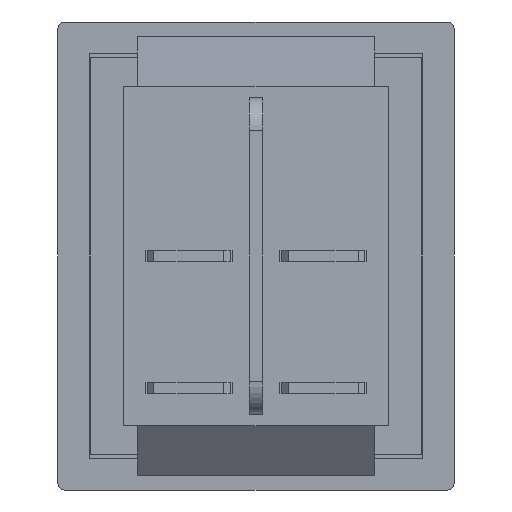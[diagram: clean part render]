
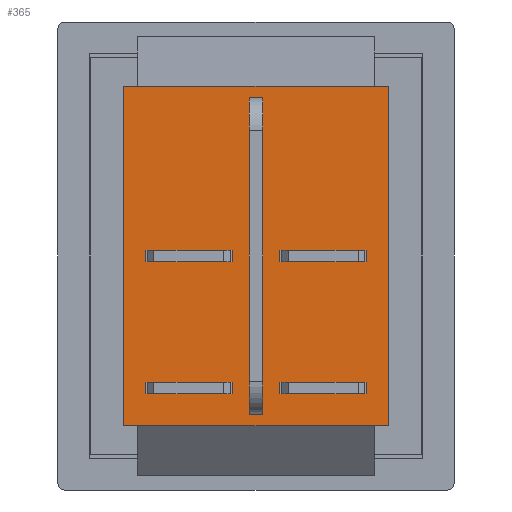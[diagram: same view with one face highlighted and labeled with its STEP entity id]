
A CAD part, front view. The second image highlights one B-rep face of the part: STEP entity #365.
In plain terms, the highlighted planar face has unit normal (0, -1, 0).
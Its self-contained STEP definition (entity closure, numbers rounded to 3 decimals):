
#51 = VERTEX_POINT('',#52);
#52 = CARTESIAN_POINT('',(-10.,-16.,12.85));
#59 = PLANE('',#60);
#60 = AXIS2_PLACEMENT_3D('',#61,#62,#63);
#61 = CARTESIAN_POINT('',(-10.,0.,12.85));
#62 = DIRECTION('',(0.,0.,1.));
#63 = DIRECTION('',(1.,0.,0.));
#71 = PLANE('',#72);
#72 = AXIS2_PLACEMENT_3D('',#73,#74,#75);
#73 = CARTESIAN_POINT('',(-10.,0.,-12.85));
#74 = DIRECTION('',(-1.,0.,0.));
#75 = DIRECTION('',(0.,0.,1.));
#83 = EDGE_CURVE('',#51,#84,#86,.T.);
#84 = VERTEX_POINT('',#85);
#85 = CARTESIAN_POINT('',(10.,-16.,12.85));
#86 = SURFACE_CURVE('',#87,(#91,#98),.PCURVE_S1.);
#87 = LINE('',#88,#89);
#88 = CARTESIAN_POINT('',(-10.,-16.,12.85));
#89 = VECTOR('',#90,1.);
#90 = DIRECTION('',(1.,0.,0.));
#91 = PCURVE('',#59,#92);
#92 = DEFINITIONAL_REPRESENTATION('',(#93),#97);
#93 = LINE('',#94,#95);
#94 = CARTESIAN_POINT('',(0.,-16.));
#95 = VECTOR('',#96,1.);
#96 = DIRECTION('',(1.,0.));
#97 = ( GEOMETRIC_REPRESENTATION_CONTEXT(2) 
PARAMETRIC_REPRESENTATION_CONTEXT() REPRESENTATION_CONTEXT('2D SPACE',''
  ) );
#98 = PCURVE('',#99,#104);
#99 = PLANE('',#100);
#100 = AXIS2_PLACEMENT_3D('',#101,#102,#103);
#101 = CARTESIAN_POINT('',(0.,-16.,0.));
#102 = DIRECTION('',(0.,1.,0.));
#103 = DIRECTION('',(0.,0.,1.));
#104 = DEFINITIONAL_REPRESENTATION('',(#105),#109);
#105 = LINE('',#106,#107);
#106 = CARTESIAN_POINT('',(12.85,-10.));
#107 = VECTOR('',#108,1.);
#108 = DIRECTION('',(0.,1.));
#109 = ( GEOMETRIC_REPRESENTATION_CONTEXT(2) 
PARAMETRIC_REPRESENTATION_CONTEXT() REPRESENTATION_CONTEXT('2D SPACE',''
  ) );
#127 = PLANE('',#128);
#128 = AXIS2_PLACEMENT_3D('',#129,#130,#131);
#129 = CARTESIAN_POINT('',(10.,0.,12.85));
#130 = DIRECTION('',(1.,0.,0.));
#131 = DIRECTION('',(0.,0.,-1.));
#169 = EDGE_CURVE('',#84,#170,#172,.T.);
#170 = VERTEX_POINT('',#171);
#171 = CARTESIAN_POINT('',(10.,-16.,-12.85));
#172 = SURFACE_CURVE('',#173,(#177,#184),.PCURVE_S1.);
#173 = LINE('',#174,#175);
#174 = CARTESIAN_POINT('',(10.,-16.,12.85));
#175 = VECTOR('',#176,1.);
#176 = DIRECTION('',(0.,0.,-1.));
#177 = PCURVE('',#127,#178);
#178 = DEFINITIONAL_REPRESENTATION('',(#179),#183);
#179 = LINE('',#180,#181);
#180 = CARTESIAN_POINT('',(0.,-16.));
#181 = VECTOR('',#182,1.);
#182 = DIRECTION('',(1.,0.));
#183 = ( GEOMETRIC_REPRESENTATION_CONTEXT(2) 
PARAMETRIC_REPRESENTATION_CONTEXT() REPRESENTATION_CONTEXT('2D SPACE',''
  ) );
#184 = PCURVE('',#99,#185);
#185 = DEFINITIONAL_REPRESENTATION('',(#186),#190);
#186 = LINE('',#187,#188);
#187 = CARTESIAN_POINT('',(12.85,10.));
#188 = VECTOR('',#189,1.);
#189 = DIRECTION('',(-1.,0.));
#190 = ( GEOMETRIC_REPRESENTATION_CONTEXT(2) 
PARAMETRIC_REPRESENTATION_CONTEXT() REPRESENTATION_CONTEXT('2D SPACE',''
  ) );
#208 = PLANE('',#209);
#209 = AXIS2_PLACEMENT_3D('',#210,#211,#212);
#210 = CARTESIAN_POINT('',(10.,0.,-12.85));
#211 = DIRECTION('',(0.,0.,-1.));
#212 = DIRECTION('',(-1.,0.,0.));
#245 = EDGE_CURVE('',#170,#246,#248,.T.);
#246 = VERTEX_POINT('',#247);
#247 = CARTESIAN_POINT('',(-10.,-16.,-12.85));
#248 = SURFACE_CURVE('',#249,(#253,#260),.PCURVE_S1.);
#249 = LINE('',#250,#251);
#250 = CARTESIAN_POINT('',(10.,-16.,-12.85));
#251 = VECTOR('',#252,1.);
#252 = DIRECTION('',(-1.,0.,0.));
#253 = PCURVE('',#208,#254);
#254 = DEFINITIONAL_REPRESENTATION('',(#255),#259);
#255 = LINE('',#256,#257);
#256 = CARTESIAN_POINT('',(0.,-16.));
#257 = VECTOR('',#258,1.);
#258 = DIRECTION('',(1.,0.));
#259 = ( GEOMETRIC_REPRESENTATION_CONTEXT(2) 
PARAMETRIC_REPRESENTATION_CONTEXT() REPRESENTATION_CONTEXT('2D SPACE',''
  ) );
#260 = PCURVE('',#99,#261);
#261 = DEFINITIONAL_REPRESENTATION('',(#262),#266);
#262 = LINE('',#263,#264);
#263 = CARTESIAN_POINT('',(-12.85,10.));
#264 = VECTOR('',#265,1.);
#265 = DIRECTION('',(0.,-1.));
#266 = ( GEOMETRIC_REPRESENTATION_CONTEXT(2) 
PARAMETRIC_REPRESENTATION_CONTEXT() REPRESENTATION_CONTEXT('2D SPACE',''
  ) );
#316 = EDGE_CURVE('',#246,#51,#317,.T.);
#317 = SURFACE_CURVE('',#318,(#322,#329),.PCURVE_S1.);
#318 = LINE('',#319,#320);
#319 = CARTESIAN_POINT('',(-10.,-16.,-12.85));
#320 = VECTOR('',#321,1.);
#321 = DIRECTION('',(0.,0.,1.));
#322 = PCURVE('',#71,#323);
#323 = DEFINITIONAL_REPRESENTATION('',(#324),#328);
#324 = LINE('',#325,#326);
#325 = CARTESIAN_POINT('',(0.,-16.));
#326 = VECTOR('',#327,1.);
#327 = DIRECTION('',(1.,0.));
#328 = ( GEOMETRIC_REPRESENTATION_CONTEXT(2) 
PARAMETRIC_REPRESENTATION_CONTEXT() REPRESENTATION_CONTEXT('2D SPACE',''
  ) );
#329 = PCURVE('',#99,#330);
#330 = DEFINITIONAL_REPRESENTATION('',(#331),#335);
#331 = LINE('',#332,#333);
#332 = CARTESIAN_POINT('',(-12.85,-10.));
#333 = VECTOR('',#334,1.);
#334 = DIRECTION('',(1.,0.));
#335 = ( GEOMETRIC_REPRESENTATION_CONTEXT(2) 
PARAMETRIC_REPRESENTATION_CONTEXT() REPRESENTATION_CONTEXT('2D SPACE',''
  ) );
#365 = ADVANCED_FACE('',(#366),#99,.F.);
#366 = FACE_BOUND('',#367,.F.);
#367 = EDGE_LOOP('',(#368,#369,#370,#371));
#368 = ORIENTED_EDGE('',*,*,#83,.T.);
#369 = ORIENTED_EDGE('',*,*,#169,.T.);
#370 = ORIENTED_EDGE('',*,*,#245,.T.);
#371 = ORIENTED_EDGE('',*,*,#316,.T.);
